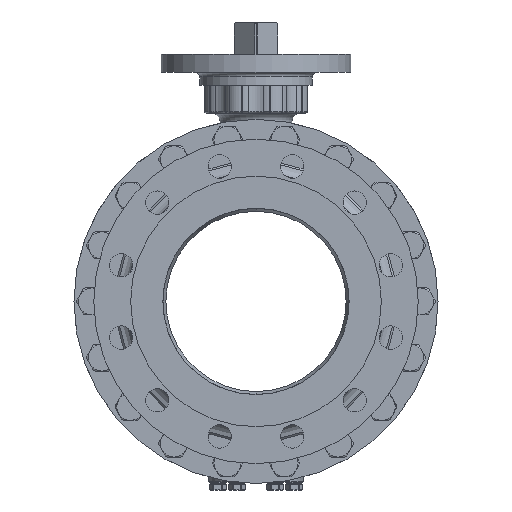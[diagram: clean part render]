
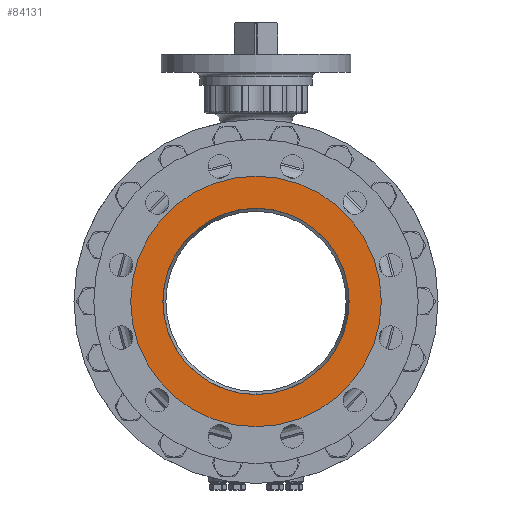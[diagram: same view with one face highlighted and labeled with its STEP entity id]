
A CAD part, left-side view. The second image highlights one B-rep face of the part: STEP entity #84131.
In plain terms, the highlighted planar face has unit normal (-1, 0, 0).
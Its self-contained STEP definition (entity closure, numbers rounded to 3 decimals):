
#10433=CARTESIAN_POINT('',(-228.5,0.,0.));
#10434=DIRECTION('',(1.,0.,0.));
#10435=DIRECTION('',(0.,0.,1.));
#10436=AXIS2_PLACEMENT_3D('',#10433,#10434,#10435);
#10438=CARTESIAN_POINT('',(-228.5,0.,0.));
#10439=DIRECTION('',(1.,0.,0.));
#10440=DIRECTION('',(0.,0.,-1.));
#10441=AXIS2_PLACEMENT_3D('',#10438,#10439,#10440);
#10443=CARTESIAN_POINT('',(-228.5,0.,0.));
#10444=DIRECTION('',(1.,0.,0.));
#10445=DIRECTION('',(0.,0.,1.));
#10446=AXIS2_PLACEMENT_3D('',#10443,#10444,#10445);
#10448=CARTESIAN_POINT('',(-228.5,0.,0.));
#10449=DIRECTION('',(-1.,0.,0.));
#10450=DIRECTION('',(0.,0.,1.));
#10451=AXIS2_PLACEMENT_3D('',#10448,#10449,#10450);
#59726=CARTESIAN_POINT('',(-228.5,0.,103.35));
#59728=VERTEX_POINT('',#59726);
#59730=CARTESIAN_POINT('',(-228.5,0.,-103.35));
#59732=VERTEX_POINT('',#59730);
#59761=CARTESIAN_POINT('',(-228.5,0.,139.));
#59762=CARTESIAN_POINT('',(-228.5,0.,-139.));
#59763=VERTEX_POINT('',#59761);
#59764=VERTEX_POINT('',#59762);
#84115=CARTESIAN_POINT('',(-228.5,0.,0.));
#84116=DIRECTION('',(-1.,0.,0.));
#84117=DIRECTION('',(0.,0.,-1.));
#84118=AXIS2_PLACEMENT_3D('',#84115,#84116,#84117);
#84119=PLANE('',#84118);
#84121=ORIENTED_EDGE('',*,*,#84120,.T.);
#84122=ORIENTED_EDGE('',*,*,#84105,.T.);
#84123=EDGE_LOOP('',(#84121,#84122));
#84124=FACE_OUTER_BOUND('',#84123,.F.);
#84126=ORIENTED_EDGE('',*,*,#84125,.F.);
#84128=ORIENTED_EDGE('',*,*,#84127,.T.);
#84129=EDGE_LOOP('',(#84126,#84128));
#84130=FACE_BOUND('',#84129,.F.);
#84131=ADVANCED_FACE('',(#84124,#84130),#84119,.T.);
#10437=CIRCLE('',#10436,139.);
#10442=CIRCLE('',#10441,139.);
#10447=CIRCLE('',#10446,103.35);
#10452=CIRCLE('',#10451,103.35);
#84105=EDGE_CURVE('',#59764,#59763,#10442,.T.);
#84120=EDGE_CURVE('',#59763,#59764,#10437,.T.);
#84125=EDGE_CURVE('',#59728,#59732,#10447,.T.);
#84127=EDGE_CURVE('',#59728,#59732,#10452,.T.);
